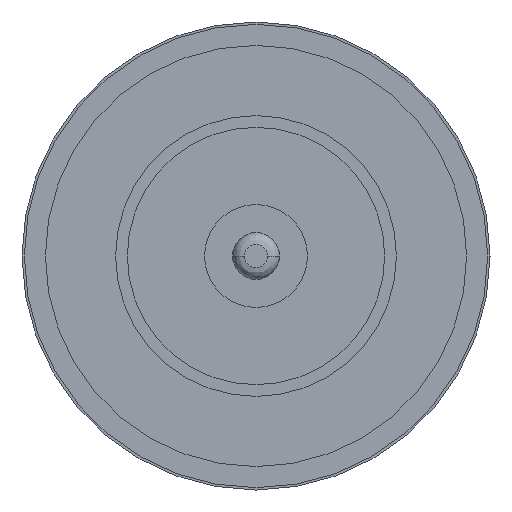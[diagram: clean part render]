
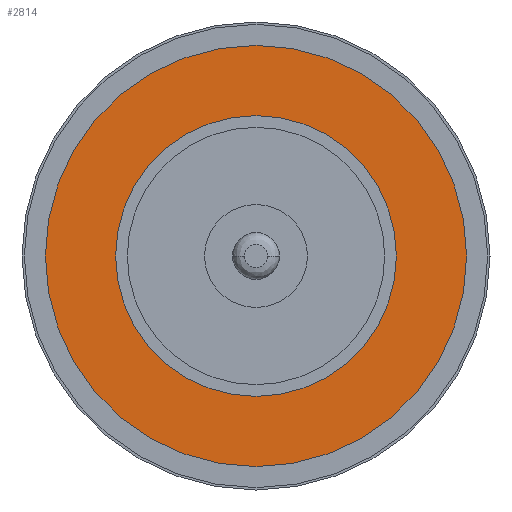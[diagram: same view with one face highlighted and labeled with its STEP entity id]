
A CAD part, left-side view. The second image highlights one B-rep face of the part: STEP entity #2814.
In plain terms, the highlighted planar face has unit normal (-1, 0, 0).
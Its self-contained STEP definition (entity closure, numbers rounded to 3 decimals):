
#239=CARTESIAN_POINT('',(0.,0.,0.));
#240=DIRECTION('',(-1.,0.,0.));
#241=DIRECTION('',(0.,1.,0.));
#242=AXIS2_PLACEMENT_3D('',#239,#240,#241);
#247=CARTESIAN_POINT('',(0.,0.,0.));
#248=DIRECTION('',(1.,0.,0.));
#249=DIRECTION('',(0.,1.,0.));
#250=AXIS2_PLACEMENT_3D('',#247,#248,#249);
#255=CARTESIAN_POINT('',(0.,0.,0.));
#256=DIRECTION('',(1.,0.,0.));
#257=DIRECTION('',(0.,1.,0.));
#258=AXIS2_PLACEMENT_3D('',#255,#256,#257);
#277=CARTESIAN_POINT('',(0.,0.,0.));
#278=DIRECTION('',(-1.,0.,0.));
#279=DIRECTION('',(0.,1.,0.));
#280=AXIS2_PLACEMENT_3D('',#277,#278,#279);
#2262=CARTESIAN_POINT('',(0.,4.5,0.));
#2264=VERTEX_POINT('',#2262);
#2278=CARTESIAN_POINT('',(0.,-4.5,0.));
#2280=VERTEX_POINT('',#2278);
#2281=CARTESIAN_POINT('',(0.,3.,0.));
#2283=VERTEX_POINT('',#2281);
#2301=CARTESIAN_POINT('',(0.,-3.,0.));
#2303=VERTEX_POINT('',#2301);
#2799=CARTESIAN_POINT('',(0.,0.,0.));
#2800=DIRECTION('',(1.,0.,0.));
#2801=DIRECTION('',(0.,-1.,0.));
#2802=AXIS2_PLACEMENT_3D('',#2799,#2800,#2801);
#2803=PLANE('',#2802);
#2804=ORIENTED_EDGE('',*,*,#2792,.F.);
#2805=ORIENTED_EDGE('',*,*,#2781,.T.);
#2806=EDGE_LOOP('',(#2804,#2805));
#2807=FACE_OUTER_BOUND('',#2806,.F.);
#2809=ORIENTED_EDGE('',*,*,#2808,.F.);
#2811=ORIENTED_EDGE('',*,*,#2810,.T.);
#2812=EDGE_LOOP('',(#2809,#2811));
#2813=FACE_BOUND('',#2812,.F.);
#2814=ADVANCED_FACE('',(#2807,#2813),#2803,.F.);
#243=CIRCLE('',#242,4.5);
#251=CIRCLE('',#250,4.5);
#259=CIRCLE('',#258,3.);
#281=CIRCLE('',#280,3.);
#2781=EDGE_CURVE('',#2264,#2280,#251,.T.);
#2792=EDGE_CURVE('',#2264,#2280,#243,.T.);
#2808=EDGE_CURVE('',#2283,#2303,#259,.T.);
#2810=EDGE_CURVE('',#2283,#2303,#281,.T.);
